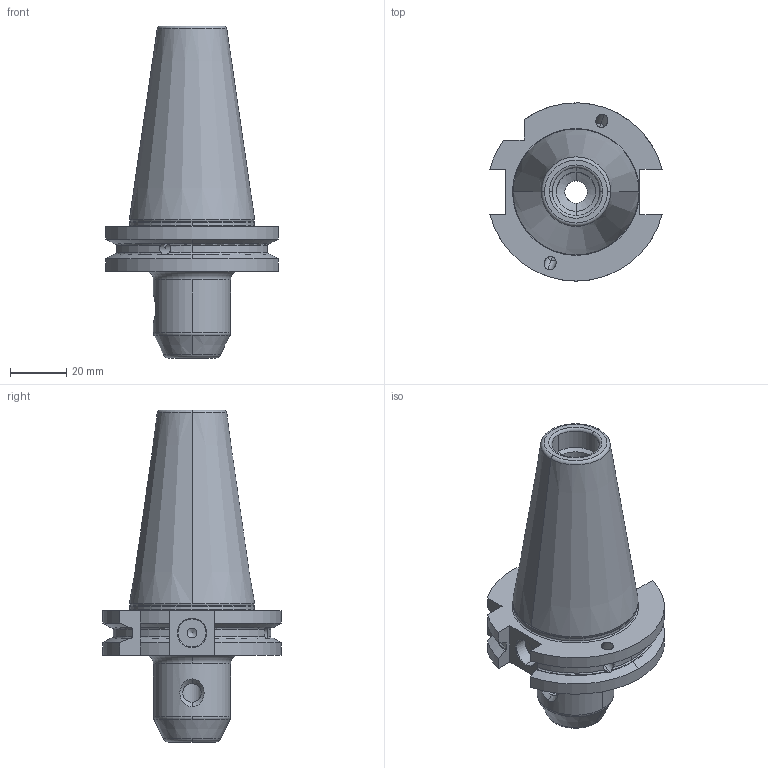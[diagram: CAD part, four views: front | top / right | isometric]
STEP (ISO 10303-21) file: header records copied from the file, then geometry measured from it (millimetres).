
FILE_DESCRIPTION(('STEP AP214'),'1');
FILE_NAME('cctmp_0DD48F0B-A197-45F7-94B3-2D8343C864C6_2020_10_19_10_10_45_0760..stp','2020-10-19T08:10:45',('Meusburger Georg GmbH & Co KG'),('CADClick - www.CADClick.com'),'Spatial InterOp 3D',' ','unknown authorization');
FILE_SCHEMA(('AUTOMOTIVE_DESIGN { 1 0 10303 214 1 1 1 1 }'));
Length unit declared in the file: millimetre
Products named in the file (2): HWZ 2202_SK40_8_50; HWZ 2202_SK40_8_50_1
Assembly tree (1 placements, depth 2):
  HWZ 2202_SK40_8_50
    HWZ 2202_SK40_8_50_1
Bounding box: 61.48 x 63.55 x 118.4 mm (x, y, z)
Volume: 114026 mm3; surface area: 24820.2 mm2
Topology: 1 solids, 1 shells, 113 faces, 335 edges, 221 vertices
Faces by surface type: cylinder 39, torus 26, cone 25, plane 23
Entity records: 5283 total; most frequent: CARTESIAN_POINT 1256, ORIENTED_EDGE 666, DIRECTION 665, EDGE_CURVE 333, AXIS2_PLACEMENT_3D 278, VERTEX_POINT 220, CIRCLE 147, EDGE_LOOP 127
